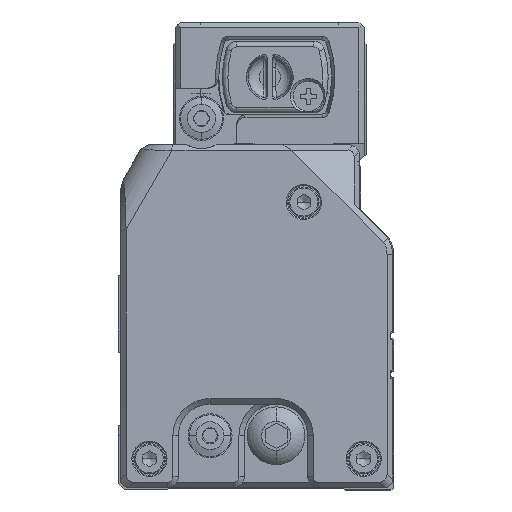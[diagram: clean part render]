
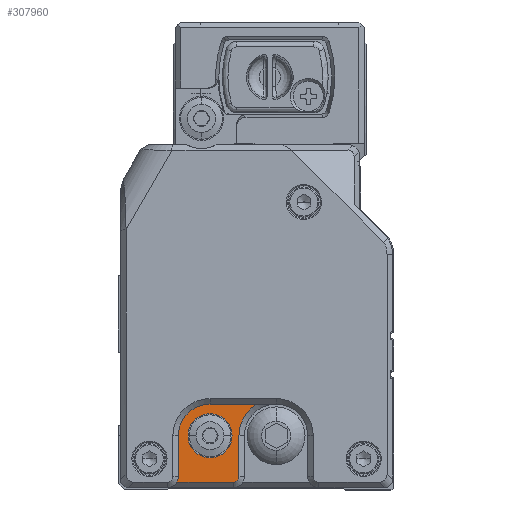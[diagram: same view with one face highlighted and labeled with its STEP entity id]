
A CAD part, left-side view. The second image highlights one B-rep face of the part: STEP entity #307960.
In plain terms, the highlighted planar face has unit normal (-1, 0, 0) as drawn and (1, 0, 0) by its records, which use the part's own axes.
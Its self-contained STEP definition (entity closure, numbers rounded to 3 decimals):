
#224960=CARTESIAN_POINT('',(864.177,2.462,
-0.852));
#224970=VERTEX_POINT('',#224960);
#225150=CARTESIAN_POINT('',(864.177,2.462,
7.148));
#225160=VERTEX_POINT('',#225150);
#225190=CARTESIAN_POINT('',(864.177,2.462,
3.148));
#225200=DIRECTION('',(-1.,0.,0.));
#225210=DIRECTION('',(0.,0.,-1.));
#225220=AXIS2_PLACEMENT_3D('',#225190,#225200,#225210);
#225230=CIRCLE('',#225220,4.);
#225240=EDGE_CURVE('',#225160,#224970,#225230,.T.);
#270490=CARTESIAN_POINT('',(864.177,-6.002,
-2.602));
#270500=VERTEX_POINT('',#270490);
#270530=CARTESIAN_POINT('',(864.177,-5.888,
-2.602));
#270540=DIRECTION('',(0.,1.,0.));
#270550=VECTOR('',#270540,1.);
#270560=LINE('',#270530,#270550);
#270570=CARTESIAN_POINT('',(864.177,2.462,
-2.602));
#270580=VERTEX_POINT('',#270570);
#270590=EDGE_CURVE('',#270500,#270580,#270560,.T.);
#306610=CARTESIAN_POINT('',(864.177,8.212,
10.598));
#306620=VERTEX_POINT('',#306610);
#306650=CARTESIAN_POINT('',(864.177,10.212,
10.598));
#306660=DIRECTION('',(-1.,0.,0.));
#306670=DIRECTION('',(0.,1.,0.));
#306680=AXIS2_PLACEMENT_3D('',#306650,#306660,#306670);
#306690=CIRCLE('',#306680,2.);
#306700=CARTESIAN_POINT('',(864.177,8.48,
11.598));
#306710=VERTEX_POINT('',#306700);
#306720=EDGE_CURVE('',#306620,#306710,#306690,.T.);
#307010=CARTESIAN_POINT('',(864.177,8.212,
3.148));
#307020=VERTEX_POINT('',#307010);
#307050=CARTESIAN_POINT('',(864.177,8.212,
3.148));
#307060=DIRECTION('',(0.,0.,1.));
#307070=VECTOR('',#307060,1.);
#307080=LINE('',#307050,#307070);
#307090=EDGE_CURVE('',#307020,#306620,#307080,.T.);
#307280=CARTESIAN_POINT('',(864.177,2.462,
3.148));
#307290=DIRECTION('',(-1.,0.,0.));
#307300=DIRECTION('',(0.,1.,0.));
#307310=AXIS2_PLACEMENT_3D('',#307280,#307290,#307300);
#307320=CIRCLE('',#307310,5.75);
#307330=EDGE_CURVE('',#307020,#270580,#307320,.T.);
#307480=CARTESIAN_POINT('',(864.177,-5.938,
-12.8));
#307490=DIRECTION('',(-1.,0.,0.));
#307500=DIRECTION('',(0.,0.,-1.));
#307510=AXIS2_PLACEMENT_3D('',#307480,#307490,#307500);
#307520=PLANE('',#307510);
#307530=CARTESIAN_POINT('',(864.177,4.212,
11.598));
#307540=DIRECTION('',(0.,-1.,0.));
#307550=VECTOR('',#307540,1.);
#307560=LINE('',#307530,#307550);
#307570=CARTESIAN_POINT('',(864.177,-1.788,
11.598));
#307580=VERTEX_POINT('',#307570);
#307590=EDGE_CURVE('',#306710,#307580,#307560,.T.);
#307600=ORIENTED_EDGE('',*,*,#307590,.T.);
#307610=ORIENTED_EDGE('',*,*,#306720,.T.);
#307620=ORIENTED_EDGE('',*,*,#307090,.T.);
#307630=ORIENTED_EDGE('',*,*,#307330,.F.);
#307640=ORIENTED_EDGE('',*,*,#270590,.T.);
#307650=CARTESIAN_POINT('',(864.177,-9.538,
3.148));
#307660=DIRECTION('',(-1.,0.,0.));
#307670=DIRECTION('',(0.,1.,0.));
#307680=AXIS2_PLACEMENT_3D('',#307650,#307660,#307670);
#307690=CIRCLE('',#307680,6.75);
#307700=CARTESIAN_POINT('',(864.177,-2.788,
3.148));
#307710=VERTEX_POINT('',#307700);
#307720=EDGE_CURVE('',#307710,#270500,#307690,.T.);
#307730=ORIENTED_EDGE('',*,*,#307720,.T.);
#307740=CARTESIAN_POINT('',(864.177,-2.788,
6.873));
#307750=DIRECTION('',(0.,0.,-1.));
#307760=VECTOR('',#307750,1.);
#307770=LINE('',#307740,#307760);
#307780=CARTESIAN_POINT('',(864.177,-2.788,
10.598));
#307790=VERTEX_POINT('',#307780);
#307800=EDGE_CURVE('',#307790,#307710,#307770,.T.);
#307810=ORIENTED_EDGE('',*,*,#307800,.T.);
#307820=CARTESIAN_POINT('',(864.177,-1.788,
10.598));
#307830=DIRECTION('',(-1.,0.,0.));
#307840=DIRECTION('',(0.,1.,0.));
#307850=AXIS2_PLACEMENT_3D('',#307820,#307830,#307840);
#307860=CIRCLE('',#307850,1.);
#307870=EDGE_CURVE('',#307790,#307580,#307860,.T.);
#307880=ORIENTED_EDGE('',*,*,#307870,.F.);
#307890=EDGE_LOOP('',(#307880,#307810,#307730,#307640,#307630,#307620,
#307610,#307600));
#307900=FACE_OUTER_BOUND('',#307890,.T.);
#307910=EDGE_CURVE('',#224970,#225160,#225230,.T.);
#307920=ORIENTED_EDGE('',*,*,#307910,.T.);
#307930=ORIENTED_EDGE('',*,*,#225240,.T.);
#307940=EDGE_LOOP('',(#307930,#307920));
#307950=FACE_BOUND('',#307940,.T.);
#307960=ADVANCED_FACE('',(#307900,#307950),#307520,.F.);
